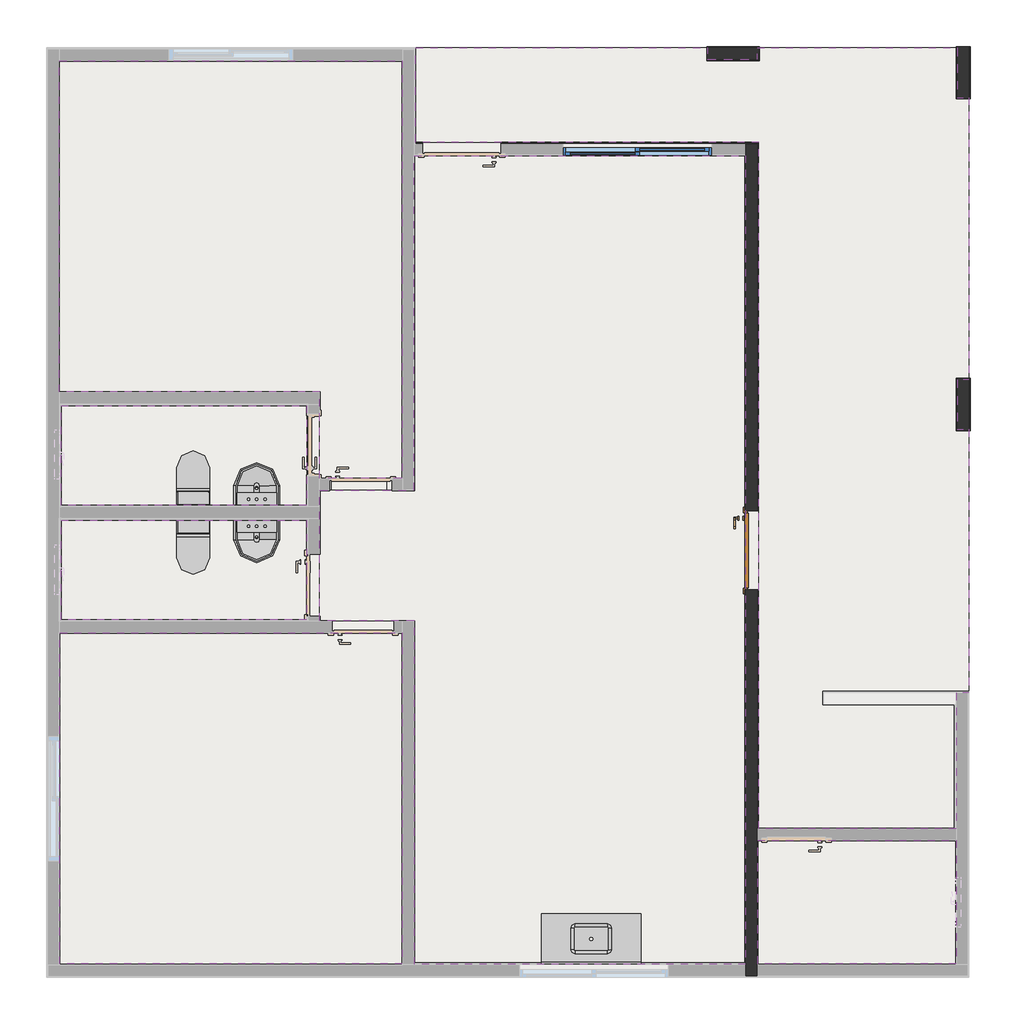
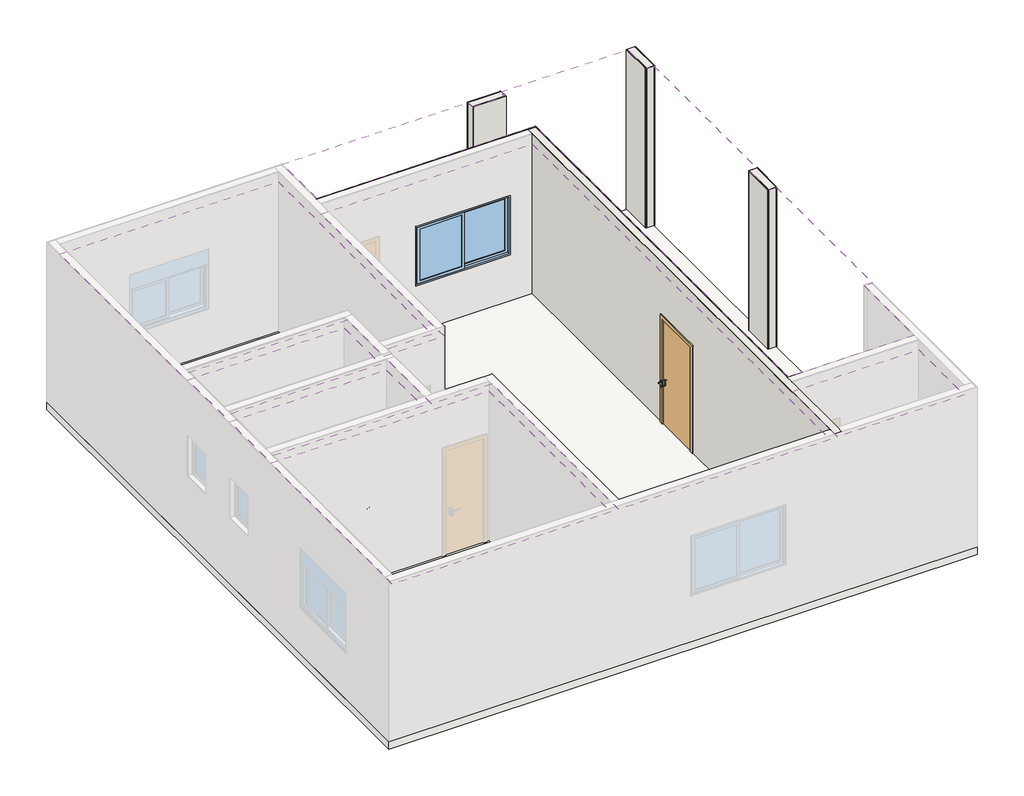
# One storey, part 3 of 3: 19 walls, 9 slabs, 8 flow terminals, 7 coverings, 1 door, 1 furniture element, 1 window.
"""IFC4 building model written with IfcOpenShell, lengths in millimetres."""

from ifc_helpers import new_model, si_unit, frame, origin, origin_with_axes, place, context, project, spatial, polyline, outline, extrude, faceted_brep, transform, mapped, element, save
from components import porta_de_madeira_interna_90x210_porta_de_madeira_interna_90_5963f6ac, flow_terminal_fb00f1ee, flow_terminal_a2c34cfb, flow_terminal_2b854958, flow_terminal_a1eea942, flow_terminal_109c0629, flow_terminal_5e795d7a, flow_terminal_b1bb3d39, flow_terminal_9a69dd1e, furniture_4236819a, window_180x120_f0fd8075

model = new_model("IFC4")

# Units and contexts
model_context = context("Model", 3, world=origin())
ifc_project = project(units=[si_unit("LENGTHUNIT", "METRE", prefix="MILLI")], contexts=[model_context])

# Site, building, storey
site = spatial("IfcSite", under=ifc_project)
building = spatial("IfcBuilding", under=site)
storey = spatial("IfcBuildingStorey", under=building, Name="Térreo", Elevation=0.0)

# Coverings
placement = place(None, origin())
element("IfcCovering", 1, ObjectType="Forro - Gesso acartonado + Pintura", at=placement, inside=storey, context=model_context, shape_type="SweptSolid", body=[
    extrude(outline(polyline([(31885.9970535, 10927.9995833), (34845.9970535, 10927.9995833), (34845.9970535, 9727.9995833), (31885.9970535, 9727.9995833), (31885.9970535, 10927.9995833)])), frame((0.0, 0.0, 3001.0), z_axis=(0.0, 0.0, 1.0), x_axis=(1.0, 0.0, 0.0)), (0.0, 0.0, 1.0), 20.0),
    extrude(outline(polyline([(34845.9970535, 10927.9995833), (34845.9970535, 9727.9995833), (31885.9970535, 9727.9995833), (31885.9970535, 10927.9995833), (34845.9970535, 10927.9995833)])), frame((0.0, 0.0, 3000.0), z_axis=(0.0, 0.0, 1.0), x_axis=(1.0, 0.0, 0.0)), (0.0, 0.0, 1.0), 1.0),
])
element("IfcCovering", 2, ObjectType="Forro - Gesso acartonado + Pintura", at=placement, inside=storey, context=model_context, shape_type="SweptSolid", body=[
    extrude(outline(polyline([(31885.9970535, 9547.9995833), (34845.9970535, 9547.9995833), (34845.9970535, 8347.9995833), (31885.9970535, 8347.9995833), (31885.9970535, 9547.9995833)])), frame((0.0, 0.0, 3001.0), z_axis=(0.0, 0.0, 1.0), x_axis=(1.0, 0.0, 0.0)), (0.0, 0.0, 1.0), 20.0),
    extrude(outline(polyline([(34845.9970535, 9547.9995833), (34845.9970535, 8347.9995833), (31885.9970535, 8347.9995833), (31885.9970535, 9547.9995833), (34845.9970535, 9547.9995833)])), frame((0.0, 0.0, 3000.0), z_axis=(0.0, 0.0, 1.0), x_axis=(1.0, 0.0, 0.0)), (0.0, 0.0, 1.0), 1.0),
])
element("IfcCovering", 3, ObjectType="Forro - Gesso acartonado + Pintura", at=placement, inside=storey, context=model_context, shape_type="SweptSolid", body=[
    extrude(outline(polyline([(31871.9970535, 8187.9995833), (35999.9970535, 8187.9995833), (35999.9970535, 4193.9995833), (31871.9970535, 4193.9995833), (31871.9970535, 8187.9995833)])), frame((0.0, 0.0, 3001.0), z_axis=(0.0, 0.0, 1.0), x_axis=(1.0, 0.0, 0.0)), (0.0, 0.0, 1.0), 20.0),
    extrude(outline(polyline([(35999.9970535, 8187.9995833), (35999.9970535, 4193.9995833), (31871.9970535, 4193.9995833), (31871.9970535, 8187.9995833), (35999.9970535, 8187.9995833)])), frame((0.0, 0.0, 3000.0), z_axis=(0.0, 0.0, 1.0), x_axis=(1.0, 0.0, 0.0)), (0.0, 0.0, 1.0), 1.0),
])
element("IfcCovering", 4, ObjectType="Forro - Gesso acartonado + Pintura", at=placement, inside=storey, context=model_context, shape_type="SweptSolid", body=[
    extrude(outline(polyline([(31865.9970535, 15087.9995833), (35999.9970535, 15087.9995833), (35999.9970535, 10053.9995833), (35005.9970535, 10053.9995833), (35005.9970535, 11093.9995833), (31865.9970535, 11093.9995833), (31865.9970535, 15087.9995833)])), frame((0.0, 0.0, 3001.0), z_axis=(0.0, 0.0, 1.0), x_axis=(1.0, 0.0, 0.0)), (0.0, 0.0, 1.0), 20.0),
    extrude(outline(polyline([(35999.9970535, 15087.9995833), (35999.9970535, 10053.9995833), (35005.9970535, 10053.9995833), (35005.9970535, 11093.9995833), (31865.9970535, 11093.9995833), (31865.9970535, 15087.9995833), (35999.9970535, 15087.9995833)])), frame((0.0, 0.0, 3000.0), z_axis=(0.0, 0.0, 1.0), x_axis=(1.0, 0.0, 0.0)), (0.0, 0.0, 1.0), 1.0),
])
element("IfcCovering", 5, ObjectType="Forro - Gesso acartonado + Pintura", at=placement, inside=storey, context=model_context, shape_type="SweptSolid", body=[
    extrude(outline(polyline([(36145.9970535, 9907.9995833), (36145.9970535, 13941.9995833), (40145.9970535, 13941.9995833), (40145.9970535, 4187.9995833), (36151.9970535, 4187.9995833), (36151.9970535, 8333.9995833), (35005.9970535, 8333.9995833), (35005.9970535, 9907.9995833), (36145.9970535, 9907.9995833)])), frame((0.0, 0.0, 3001.0), z_axis=(0.0, 0.0, 1.0), x_axis=(1.0, 0.0, 0.0)), (0.0, 0.0, 1.0), 20.0),
    extrude(outline(polyline([(36145.9970535, 13941.9995833), (40145.9970535, 13941.9995833), (40145.9970535, 4187.9995833), (36151.9970535, 4187.9995833), (36151.9970535, 8333.9995833), (35005.9970535, 8333.9995833), (35005.9970535, 9907.9995833), (36145.9970535, 9907.9995833), (36145.9970535, 13941.9995833)])), frame((0.0, 0.0, 3000.0), z_axis=(0.0, 0.0, 1.0), x_axis=(1.0, 0.0, 0.0)), (0.0, 0.0, 1.0), 1.0),
])
element("IfcCovering", 6, ObjectType="Forro - Gesso acartonado + Pintura", at=placement, inside=storey, context=model_context, shape_type="SweptSolid", body=[
    extrude(outline(polyline([(40291.9970535, 4193.9995833), (40291.9970535, 5687.9995833), (42685.9970535, 5687.9995833), (42685.9970535, 4193.9995833), (40291.9970535, 4193.9995833)])), frame((0.0, 0.0, 3001.0), z_axis=(0.0, 0.0, 1.0), x_axis=(1.0, 0.0, 0.0)), (0.0, 0.0, 1.0), 20.0),
    extrude(outline(polyline([(40291.9970535, 5687.9995833), (42685.9970535, 5687.9995833), (42685.9970535, 4193.9995833), (40291.9970535, 4193.9995833), (40291.9970535, 5687.9995833)])), frame((0.0, 0.0, 3000.0), z_axis=(0.0, 0.0, 1.0), x_axis=(1.0, 0.0, 0.0)), (0.0, 0.0, 1.0), 1.0),
])
element("IfcCovering", 7, ObjectType="Forro - Gesso acartonado + Pintura", at=placement, inside=storey, context=model_context, shape_type="SweptSolid", body=[
    extrude(outline(polyline([(36165.9970535, 15243.9995833), (39685.9970535, 15243.9995833), (39685.9970535, 15103.9995833), (40285.9970535, 15103.9995833), (40285.9970535, 15243.9995833), (42701.9970535, 15243.9995833), (42701.9970535, 14643.9995833), (42841.9970535, 14643.9995833), (42841.9970535, 11241.9995833), (42701.9970535, 11241.9995833), (42701.9970535, 10641.9995833), (42841.9970535, 10641.9995833), (42841.9970535, 7467.9995833), (42685.9970535, 7467.9995833), (42685.9970535, 5827.9995833), (40305.9970535, 5827.9995833), (40305.9970535, 14107.9995833), (36165.9970535, 14107.9995833), (36165.9970535, 15243.9995833)])), frame((0.0, 0.0, 3201.0), z_axis=(0.0, 0.0, 1.0), x_axis=(1.0, 0.0, 0.0)), (0.0, 0.0, 1.0), 20.0),
    extrude(outline(polyline([(39685.9970535, 15243.9995833), (39685.9970535, 15103.9995833), (40285.9970535, 15103.9995833), (40285.9970535, 15243.9995833), (42701.9970535, 15243.9995833), (42701.9970535, 14643.9995833), (42841.9970535, 14643.9995833), (42841.9970535, 11241.9995833), (42701.9970535, 11241.9995833), (42701.9970535, 10641.9995833), (42841.9970535, 10641.9995833), (42841.9970535, 7467.9995833), (42685.9970535, 7467.9995833), (42685.9970535, 5827.9995833), (40305.9970535, 5827.9995833), (40305.9970535, 14107.9995833), (36165.9970535, 14107.9995833), (36165.9970535, 15243.9995833), (39685.9970535, 15243.9995833)])), frame((0.0, 0.0, 3200.0), z_axis=(0.0, 0.0, 1.0), x_axis=(1.0, 0.0, 0.0)), (0.0, 0.0, 1.0), 1.0),
])

# Door
porta_de_madeira_interna_90x210_porta_de_madeira_interna_90_shape = porta_de_madeira_interna_90x210_porta_de_madeira_interna_90_5963f6ac(model_context)
element("IfcDoor", 8, ObjectType="Porta de Madeira Interna 90x210 : Porta de Madeira Interna 90 x 210", at=placement, inside=storey, context=model_context, shape_type="MappedRepresentation", body=[
    mapped(porta_de_madeira_interna_90x210_porta_de_madeira_interna_90_shape, transform((40139.8220535, 9182.9995833, 0.0), x_axis=(0.0, -1.0, 0.0), y_axis=(1.0, 0.0, 0.0), z_axis=(0.0, 0.0, 1.0))),
])

# Flow terminals
flow_terminal_shape = flow_terminal_fb00f1ee(model_context)
element("IfcFlowTerminal", 9, ObjectType="Deca_Shared_Assento_P.280 : Bacia Sanitária - Assento", at=placement, inside=storey, context=model_context, shape_type="MappedRepresentation", body=[
    mapped(flow_terminal_shape, transform((33473.7803912, 9341.9452804, 400.0300928), x_axis=(1.0, 0.0, 0.0), y_axis=(0.0, 0.0, 1.0), z_axis=(0.0, -1.0, 0.0))),
])
flow_terminal_2_shape = flow_terminal_a2c34cfb(model_context)
element("IfcFlowTerminal", 10, ObjectType="DECA_BACIA SANITARIA WISH_P.280_CAIXA ACOPLADA : Bacia Sanitária - Caixa Acoplada Inferior", at=placement, inside=storey, context=model_context, shape_type="MappedRepresentation", body=[
    mapped(flow_terminal_2_shape, transform((33479.5386948, 9547.9995833, 0.0), x_axis=(1.0, 0.0, 0.0), y_axis=(0.0, 0.0, 1.0), z_axis=(0.0, -1.0, 0.0))),
])
flow_terminal_3_shape = flow_terminal_2b854958(model_context)
element("IfcFlowTerminal", 11, ObjectType="Deca_Shared_Caixa Acoplada para Bacia_P.280 : Bacia Sanitária - Caixa Acoplada", at=placement, inside=storey, context=model_context, shape_type="MappedRepresentation", body=[
    mapped(flow_terminal_3_shape, transform((33479.5385074, 9537.9995833, 400.0300928), x_axis=(1.0, 0.0, 0.0), y_axis=(0.0, 0.0, 1.0), z_axis=(0.0, -1.0, 0.0))),
])
flow_terminal_4_shape = flow_terminal_a1eea942(model_context)
element("IfcFlowTerminal", 12, ObjectType="DECA_BACIA SANITARIA WISH_P.280_CAIXA ACOPLADA : Bacia Sanitária - Caixa Acoplada Inferior", at=placement, inside=storey, context=model_context, shape_type="MappedRepresentation", body=[
    mapped(flow_terminal_4_shape, transform((33479.5386948, 9727.9995833, 0.0), x_axis=(1.0, 0.0, 0.0), y_axis=(0.0, 0.0, -1.0), z_axis=(0.0, 1.0, 0.0))),
])
flow_terminal_5_shape = flow_terminal_109c0629(model_context)
element("IfcFlowTerminal", 13, ObjectType="Deca_Shared_Caixa Acoplada para Bacia_P.280 : Bacia Sanitária - Caixa Acoplada", at=placement, inside=storey, context=model_context, shape_type="MappedRepresentation", body=[
    mapped(flow_terminal_5_shape, transform((33479.5385074, 9737.9995833, 400.0300928), x_axis=(1.0, 0.0, 0.0), y_axis=(0.0, 0.0, -1.0), z_axis=(0.0, 1.0, 0.0))),
])
flow_terminal_6_shape = flow_terminal_5e795d7a(model_context)
element("IfcFlowTerminal", 14, ObjectType="Deca_Shared_Assento_P.280 : Bacia Sanitária - Assento", at=placement, inside=storey, context=model_context, shape_type="MappedRepresentation", body=[
    mapped(flow_terminal_6_shape, transform((33473.7803912, 9934.0538862, 400.0300928), x_axis=(1.0, 0.0, 0.0), y_axis=(0.0, 0.0, -1.0), z_axis=(0.0, 1.0, 0.0))),
])
flow_terminal_7_shape = flow_terminal_b1bb3d39(model_context)
element("IfcFlowTerminal", 15, ObjectType="Deca_Lavatorio Belle Epoque_L.2_Coluna : Pia Banho", at=placement, inside=storey, context=model_context, shape_type="MappedRepresentation", body=[
    mapped(flow_terminal_7_shape, transform((34245.9970535, 9547.9995833, 783.6791778), x_axis=(1.0, 0.0, 0.0), y_axis=(0.0, 0.0, 1.0), z_axis=(0.0, -1.0, 0.0))),
])
flow_terminal_8_shape = flow_terminal_9a69dd1e(model_context)
element("IfcFlowTerminal", 16, ObjectType="Deca_Lavatorio Belle Epoque_L.2_Coluna : Pia Banho", at=placement, inside=storey, context=model_context, shape_type="MappedRepresentation", body=[
    mapped(flow_terminal_8_shape, transform((34245.9970535, 9727.9995833, 783.6791778), x_axis=(1.0, 0.0, 0.0), y_axis=(0.0, 0.0, -1.0), z_axis=(0.0, 1.0, 0.0))),
])

# Furniture
furniture_shape = furniture_4236819a(model_context)
element("IfcFurniture", 17, ObjectType="Tampo de Bancada com Cuba : Granilite 60cm", at=placement, inside=storey, context=model_context, shape_type="MappedRepresentation", body=[
    mapped(furniture_shape, transform((37682.0347585, 4197.9995833, 10.0), x_axis=(-1.0, 0.0, 0.0), y_axis=(0.0, -1.0, 0.0), z_axis=(0.0, 0.0, 1.0))),
])

# Slabs
element("IfcSlab", 18, ObjectType="Cerâmica", at=placement, inside=storey, context=model_context, shape_type="SweptSolid", body=[
    extrude(outline(polyline([(35999.9970535, 15081.9995833), (35999.9970535, 10053.9995833), (35005.9970535, 10053.9995833), (35005.9970535, 11093.9995833), (31865.9970535, 11093.9995833), (31865.9970535, 15081.9995833), (35999.9970535, 15081.9995833)])), origin_with_axes(), (0.0, 0.0, 1.0), 10.0),
])
element("IfcSlab", 19, ObjectType="Cerâmica", at=placement, inside=storey, context=model_context, shape_type="SweptSolid", body=[
    extrude(outline(polyline([(36005.9970535, 8187.9995833), (36005.9970535, 4187.9995833), (31865.9970535, 4187.9995833), (31865.9970535, 8187.9995833), (36005.9970535, 8187.9995833)])), origin_with_axes(), (0.0, 0.0, 1.0), 10.0),
])
element("IfcSlab", 20, ObjectType="Cerâmica", at=placement, inside=storey, context=model_context, shape_type="Brep", body=[
    faceted_brep([(36145.9970535, 13941.9995833, 0.0), (40139.9970535, 13941.9995833, 0.0), (40145.9970535, 13941.9995833, 0.0), (40145.9970535, 9657.9995833, 0.0), (40145.9970535, 8707.9995833, 0.0), (40145.9970535, 4187.9995833, 0.0), (36145.9970535, 4187.9995833, 0.0), (36145.9970535, 8333.9995833, 0.0), (35005.9970535, 8333.9995833, 0.0), (35005.9970535, 9907.9995833, 0.0), (36145.9970535, 9907.9995833, 0.0), (36145.9970535, 13941.9995833, 10.0), (36145.9970535, 9907.9995833, 10.0), (35005.9970535, 9907.9995833, 10.0), (35005.9970535, 8333.9995833, 10.0), (36145.9970535, 8333.9995833, 10.0), (36145.9970535, 4187.9995833, 10.0), (36151.9970535, 4187.9995833, 10.0), (40139.9970535, 4187.9995833, 10.0), (40145.9970535, 4187.9995833, 10.0), (40145.9970535, 4207.9995833, 10.0), (40145.9970535, 8707.9995833, 10.0), (40145.9970535, 9657.9995833, 10.0), (40145.9970535, 13941.9995833, 10.0), (40139.9970535, 13941.9995833, 10.0)], [[[0, 1, 2, 3, 4, 5, 6, 7, 8, 9, 10]], [[11, 12, 13, 14, 15, 16, 17, 18, 19, 20, 21, 22, 23, 24]], [[2, 1, 0, 11, 24, 23]], [[5, 4, 3, 2, 23, 22, 21, 20, 19]], [[6, 5, 19, 18, 17, 16]], [[7, 6, 16, 15]], [[8, 7, 15, 14]], [[9, 8, 14, 13]], [[10, 9, 13, 12]], [[0, 10, 12, 11]]]),
])
element("IfcSlab", 21, ObjectType="Cerâmica", at=placement, inside=storey, context=model_context, shape_type="SweptSolid", body=[
    extrude(outline(polyline([(34845.9970535, 10927.9995833), (34845.9970535, 9727.9995833), (31885.9970535, 9727.9995833), (31885.9970535, 10927.9995833), (34845.9970535, 10927.9995833)])), origin_with_axes(), (0.0, 0.0, 1.0), 10.0),
])
element("IfcSlab", 22, ObjectType="Cerâmica", at=placement, inside=storey, context=model_context, shape_type="SweptSolid", body=[
    extrude(outline(polyline([(31885.9970535, 9547.9995833), (34845.9970535, 9547.9995833), (34845.9970535, 8347.9995833), (31885.9970535, 8347.9995833), (31885.9970535, 9547.9995833)])), origin_with_axes(), (0.0, 0.0, 1.0), 10.0),
])
element("IfcSlab", 23, ObjectType="Cerâmica", at=placement, inside=storey, context=model_context, shape_type="SweptSolid", body=[
    extrude(outline(polyline([(42701.9970535, 15243.9995833), (42701.9970535, 14643.9995833), (42841.9970535, 14643.9995833), (42841.9970535, 7463.9995833), (41075.9970535, 7463.9995833), (41075.9970535, 7321.9995833), (42665.9970535, 7321.9995833), (42665.9970535, 5827.9995833), (40305.9970535, 5827.9995833), (40305.9970535, 14107.9995833), (36165.9970535, 14107.9995833), (36165.9970535, 15243.9995833), (42701.9970535, 15243.9995833)])), origin_with_axes(), (0.0, 0.0, 1.0), 10.0),
])
element("IfcSlab", 24, ObjectType="Cerâmica", at=placement, inside=storey, context=model_context, shape_type="SweptSolid", body=[
    extrude(outline(polyline([(40291.9970535, 5681.9995833), (42685.9970535, 5681.9995833), (42685.9970535, 4193.9995833), (40291.9970535, 4193.9995833), (40291.9970535, 5681.9995833)])), origin_with_axes(), (0.0, 0.0, 1.0), 10.0),
])
element("IfcSlab", 25, ObjectType="Soleira", at=placement, inside=storey, context=model_context, shape_type="SweptSolid", body=[
    extrude(outline(polyline([(35813.2429837, 10053.9995833), (35813.2429837, 9907.9995833), (35152.9970535, 9907.9995833), (35152.9970535, 10053.9995833), (35813.2429837, 10053.9995833)])), frame((0.0, 0.0, -10.0), z_axis=(0.0, 0.0, 1.0), x_axis=(1.0, 0.0, 0.0)), (0.0, 0.0, 1.0), 10.0),
])
element("IfcSlab", 26, ObjectType="radier", at=placement, inside=storey, context=model_context, shape_type="SweptSolid", body=[
    extrude(outline(polyline([(31709.9970535, 4031.9995833), (31709.9970535, 15243.9995833), (42841.9970535, 15243.9995833), (42841.9970535, 4031.9995833), (31709.9970535, 4031.9995833)])), frame((0.0, 0.0, -150.0), z_axis=(0.0, 0.0, 1.0), x_axis=(1.0, 0.0, 0.0)), (0.0, 0.0, 1.0), 150.0),
])

# Walls
element("IfcWall", 27, ObjectType="Alvenaria Estrutural", at=placement, inside=storey, context=model_context, shape_type="Brep", body=[
    faceted_brep([(40145.9970535, 4047.9995833, 3200.0), (40145.9970535, 4187.9995833, 3200.0), (40145.9970535, 13941.9995833, 3200.0), (40145.9970535, 13947.9995833, 3200.0), (40145.9970535, 14087.9995833, 3200.0), (40145.9970535, 14087.9995833, 0.0), (40145.9970535, 13947.9995833, 0.0), (40145.9970535, 13941.9995833, 0.0), (40145.9970535, 9657.9995833, 0.0), (40145.9970535, 9657.9995833, 10.0), (40145.9970535, 9657.9995833, 2125.0), (40145.9970535, 8707.9995833, 2125.0), (40145.9970535, 8707.9995833, 10.0), (40145.9970535, 8707.9995833, 0.0), (40145.9970535, 4187.9995833, 0.0), (40145.9970535, 4047.9995833, 0.0), (40285.9970535, 14087.9995833, 3200.0), (40285.9970535, 5833.9995833, 3200.0), (40285.9970535, 5827.9995833, 3200.0), (40285.9970535, 5687.9995833, 3200.0), (40285.9970535, 5681.9995833, 3200.0), (40285.9970535, 4187.9995833, 3200.0), (40285.9970535, 4047.9995833, 3200.0), (40285.9970535, 4047.9995833, 0.0), (40285.9970535, 4187.9995833, 0.0), (40285.9970535, 5681.9995833, 0.0), (40285.9970535, 5687.9995833, 0.0), (40285.9970535, 5827.9995833, 0.0), (40285.9970535, 5833.9995833, 0.0), (40285.9970535, 8707.9995833, 0.0), (40285.9970535, 8707.9995833, 2125.0), (40285.9970535, 9657.9995833, 2125.0), (40285.9970535, 9657.9995833, 0.0), (40285.9970535, 14087.9995833, 0.0)], [[[0, 1, 2, 3, 4, 5, 6, 7, 8, 9, 10, 11, 12, 13, 14, 15]], [[16, 17, 18, 19, 20, 21, 22, 23, 24, 25, 26, 27, 28, 29, 30, 31, 32, 33]], [[6, 5, 33, 32, 8, 7]], [[1, 0, 22, 21, 20, 19, 18, 17, 16, 4, 3, 2]], [[0, 15, 23, 22]], [[5, 4, 16, 33]], [[12, 11, 30, 29, 13]], [[11, 10, 31, 30]], [[9, 8, 32, 31, 10]], [[14, 13, 29, 28, 27, 26, 25, 24, 23, 15]]]),
])
element("IfcWall", 28, ObjectType="Alvenaria Estrutural", at=placement, inside=storey, context=model_context, shape_type="SweptSolid", body=[
    extrude(outline(polyline([(42701.9970535, 14628.9995833), (42701.9970535, 15258.9995833), (42841.9970535, 15258.9995833), (42841.9970535, 14628.9995833), (42701.9970535, 14628.9995833)])), origin_with_axes(), (0.0, 0.0, 1.0), 3200.0),
])
element("IfcWall", 29, ObjectType="Alvenaria Estrutural", at=placement, inside=storey, context=model_context, shape_type="SweptSolid", body=[
    extrude(outline(polyline([(42701.9970535, 10626.9995833), (42701.9970535, 11256.9995833), (42841.9970535, 11256.9995833), (42841.9970535, 10626.9995833), (42701.9970535, 10626.9995833)])), origin_with_axes(), (0.0, 0.0, 1.0), 3200.0),
])
element("IfcWall", 30, ObjectType="Alvenaria Estrutural", at=placement, inside=storey, context=model_context, shape_type="SweptSolid", body=[
    extrude(outline(polyline([(39678.9970535, 15243.9995833), (40308.9970535, 15243.9995833), (40308.9970535, 15103.9995833), (39678.9970535, 15103.9995833), (39678.9970535, 15243.9995833)])), origin_with_axes(), (0.0, 0.0, 1.0), 3200.0),
])
element("IfcWall", 31, ObjectType="Gesso Liso + Pintura", at=placement, inside=storey, context=model_context, shape_type="SweptSolid", body=[
    extrude(outline(polyline([(13947.9995833, 0.0), (13941.9995833, 0.0), (13941.9995833, 10.0), (9657.9995833, 10.0), (9657.9995833, 2125.0), (8707.9995833, 2125.0), (8707.9995833, 10.0), (4187.9995833, 10.0), (4187.9995833, 3200.0), (13947.9995833, 3200.0), (13947.9995833, 0.0)])), frame((40144.9970535, 0.0, 0.0), z_axis=(1.0, 0.0, 0.0), x_axis=(0.0, 1.0, 0.0)), (0.0, 0.0, 1.0), 1.0),
    extrude(outline(polyline([(4187.9995833, 3200.0), (13947.9995833, 3200.0), (13947.9995833, 0.0), (13941.9995833, 0.0), (13941.9995833, 10.0), (9657.9995833, 10.0), (9657.9995833, 2125.0), (8707.9995833, 2125.0), (8707.9995833, 10.0), (4187.9995833, 10.0), (4187.9995833, 3200.0)])), frame((40139.9970535, 0.0, 0.0), z_axis=(1.0, 0.0, 0.0), x_axis=(0.0, 1.0, 0.0)), (0.0, 0.0, 1.0), 5.0),
])
element("IfcWall", 32, ObjectType="Reboco + Pintura Externa", at=placement, inside=storey, context=model_context, shape_type="SolidModel", body=[
    extrude(outline(polyline([(14103.9995833, 0.0), (9657.9995833, 0.0), (9657.9995833, 2125.0), (8707.9995833, 2125.0), (8707.9995833, 0.0), (5833.9995833, 0.0), (5833.9995833, 3200.0), (14103.9995833, 3200.0), (14103.9995833, 0.0)])), frame((40300.9970535, 0.0, 0.0), z_axis=(1.0, 0.0, 0.0), x_axis=(0.0, 1.0, 0.0)), (0.0, 0.0, 1.0), 1.0),
    faceted_brep([(40290.9970535, 9657.9995833, 0.0), (40290.9970535, 14092.9995833, 0.0), (40290.9970535, 14092.9995833, 3200.0), (40290.9970535, 5833.9995833, 3200.0), (40290.9970535, 5833.9995833, 0.0), (40290.9970535, 8707.9995833, 0.0), (40290.9970535, 8707.9995833, 2125.0), (40290.9970535, 9657.9995833, 2125.0), (40285.9970535, 5833.9995833, 0.0), (40285.9970535, 8707.9995833, 0.0), (40285.9970535, 14087.9995833, 3200.0), (40285.9970535, 5833.9995833, 3200.0), (40285.9970535, 14092.9995833, 3200.0), (40285.9970535, 8707.9995833, 2125.0), (40285.9970535, 9657.9995833, 2125.0), (40285.9970535, 9657.9995833, 0.0), (40285.9970535, 14087.9995833, 0.0), (40285.9970535, 14092.9995833, 0.0)], [[[0, 1, 2, 3, 4, 5, 6, 7]], [[8, 9, 5, 4]], [[10, 11, 3, 2, 12]], [[11, 8, 4, 3]], [[9, 13, 6, 5]], [[13, 14, 7, 6]], [[14, 15, 0, 7]], [[16, 17, 1, 0, 15]], [[11, 10, 12, 17, 16, 15, 14, 13, 9, 8]], [[17, 12, 2, 1]]]),
    extrude(outline(polyline([(14102.9995833, 0.0), (9657.9995833, 0.0), (9657.9995833, 2125.0), (8707.9995833, 2125.0), (8707.9995833, 0.0), (5833.9995833, 0.0), (5833.9995833, 3200.0), (14102.9995833, 3200.0), (14102.9995833, 0.0)])), frame((40290.9970535, 0.0, 0.0), z_axis=(1.0, 0.0, 0.0), x_axis=(0.0, 1.0, 0.0)), (0.0, 0.0, 1.0), 10.0),
])
element("IfcWall", 33, ObjectType="Reboco + Pintura Externa", at=placement, inside=storey, context=model_context, shape_type="SolidModel", body=[
    extrude(outline(polyline([(0.0, 37195.9970535), (0.0, 40300.9970535), (3200.0, 40300.9970535), (3200.0, 36145.9970535), (0.0, 36145.9970535), (0.0, 36245.9970535), (2125.0, 36245.9970535), (2125.0, 37195.9970535), (0.0, 37195.9970535)]), holes=[polyline([(920.0, 37939.9970535), (2120.0, 37939.9970535), (2120.0, 39739.9970535), (920.0, 39739.9970535), (920.0, 37939.9970535)])]), frame((0.0, 14102.9995833, 0.0), z_axis=(0.0, 1.0, 0.0), x_axis=(0.0, 0.0, 1.0)), (0.0, 0.0, 1.0), 1.0),
    faceted_brep([(40285.9970535, 14092.9995833, 0.0), (37195.9970535, 14092.9995833, 0.0), (37195.9970535, 14092.9995833, 2125.0), (36245.9970535, 14092.9995833, 2125.0), (36245.9970535, 14092.9995833, 0.0), (36145.9970535, 14092.9995833, 0.0), (36145.9970535, 14092.9995833, 3200.0), (40285.9970535, 14092.9995833, 3200.0), (37939.9970535, 14092.9995833, 2120.0), (37939.9970535, 14092.9995833, 920.0), (39739.9970535, 14092.9995833, 920.0), (39739.9970535, 14092.9995833, 2120.0), (40145.9970535, 14087.9995833, 0.0), (37195.9970535, 14087.9995833, 0.0), (40285.9970535, 14087.9995833, 0.0), (40145.9970535, 14087.9995833, 3200.0), (40285.9970535, 14087.9995833, 3200.0), (36145.9970535, 14087.9995833, 3200.0), (36145.9970535, 14087.9995833, 0.0), (36245.9970535, 14087.9995833, 2125.0), (36245.9970535, 14087.9995833, 0.0), (37195.9970535, 14087.9995833, 2125.0), (37939.9970535, 14087.9995833, 2120.0), (37939.9970535, 14087.9995833, 920.0), (39739.9970535, 14087.9995833, 2120.0), (39739.9970535, 14087.9995833, 920.0)], [[[0, 1, 2, 3, 4, 5, 6, 7], [8, 9, 10, 11]], [[12, 13, 1, 0, 14]], [[15, 16, 7, 6, 17]], [[16, 14, 0, 7]], [[18, 17, 6, 5]], [[19, 20, 4, 3]], [[21, 19, 3, 2]], [[13, 21, 2, 1]], [[22, 23, 9, 8]], [[24, 22, 8, 11]], [[25, 24, 11, 10]], [[23, 25, 10, 9]], [[20, 18, 5, 4]], [[16, 15, 17, 18, 20, 19, 21, 13, 12, 14], [23, 22, 24, 25]]]),
    extrude(outline(polyline([(0.0, 37195.9970535), (0.0, 40290.9970535), (3200.0, 40290.9970535), (3200.0, 36145.9970535), (0.0, 36145.9970535), (0.0, 36245.9970535), (2125.0, 36245.9970535), (2125.0, 37195.9970535), (0.0, 37195.9970535)]), holes=[polyline([(920.0, 37939.9970535), (2120.0, 37939.9970535), (2120.0, 39739.9970535), (920.0, 39739.9970535), (920.0, 37939.9970535)])]), frame((0.0, 14092.9995833, 0.0), z_axis=(0.0, 1.0, 0.0), x_axis=(0.0, 0.0, 1.0)), (0.0, 0.0, 1.0), 10.0),
])
element("IfcWall", 34, ObjectType="Reboco + Pintura Externa", at=placement, inside=storey, context=model_context, shape_type="SolidModel", body=[
    extrude(outline(polyline([(39677.9970535, 15259.9995833), (40309.9970535, 15259.9995833), (40309.9970535, 15258.9995833), (39677.9970535, 15258.9995833), (39677.9970535, 15259.9995833)])), origin_with_axes(), (0.0, 0.0, 1.0), 3200.0),
    faceted_brep([(40298.9970535, 15248.9995833, 0.0), (39688.9970535, 15248.9995833, 0.0), (39688.9970535, 15248.9995833, 3200.0), (40298.9970535, 15248.9995833, 3200.0), (39693.9970535, 15243.9995833, 0.0), (39688.9970535, 15243.9995833, 0.0), (40298.9970535, 15243.9995833, 0.0), (40293.9970535, 15243.9995833, 0.0), (40293.9970535, 15243.9995833, 3200.0), (40298.9970535, 15243.9995833, 3200.0), (39688.9970535, 15243.9995833, 3200.0), (39693.9970535, 15243.9995833, 3200.0)], [[[0, 1, 2, 3]], [[4, 5, 1, 0, 6, 7]], [[8, 9, 3, 2, 10, 11]], [[5, 4, 7, 6, 9, 8, 11, 10]], [[5, 10, 2, 1]], [[9, 6, 0, 3]]]),
    extrude(outline(polyline([(39678.9970535, 15248.9995833), (39678.9970535, 15258.9995833), (40308.9970535, 15258.9995833), (40308.9970535, 15248.9995833), (39678.9970535, 15248.9995833)])), origin_with_axes(), (0.0, 0.0, 1.0), 3200.0),
])
element("IfcWall", 35, ObjectType="Reboco + Pintura Externa", at=placement, inside=storey, context=model_context, shape_type="SweptSolid", body=[
    extrude(outline(polyline([(39677.9970535, 15087.9995833), (39677.9970535, 15258.9995833), (39678.9970535, 15258.9995833), (39678.9970535, 15087.9995833), (39677.9970535, 15087.9995833)])), origin_with_axes(), (0.0, 0.0, 1.0), 3200.0),
    extrude(outline(polyline([(39693.9970535, 15103.9995833), (39693.9970535, 15098.9995833), (39688.9970535, 15098.9995833), (39688.9970535, 15103.9995833), (39693.9970535, 15103.9995833)])), origin_with_axes(), (0.0, 0.0, 1.0), 3200.0),
    extrude(outline(polyline([(39688.9970535, 15088.9995833), (39678.9970535, 15088.9995833), (39678.9970535, 15103.9995833), (39688.9970535, 15103.9995833), (39688.9970535, 15088.9995833)])), origin_with_axes(), (0.0, 0.0, 1.0), 3200.0),
    extrude(outline(polyline([(39678.9970535, 15248.9995833), (39688.9970535, 15248.9995833), (39688.9970535, 15243.9995833), (39678.9970535, 15243.9995833), (39678.9970535, 15248.9995833)])), origin_with_axes(), (0.0, 0.0, 1.0), 3200.0),
])
element("IfcWall", 36, ObjectType="Reboco + Pintura Externa", at=placement, inside=storey, context=model_context, shape_type="SolidModel", body=[
    extrude(outline(polyline([(40309.9970535, 15087.9995833), (39678.9970535, 15087.9995833), (39678.9970535, 15088.9995833), (40309.9970535, 15088.9995833), (40309.9970535, 15087.9995833)])), origin_with_axes(), (0.0, 0.0, 1.0), 3200.0),
    faceted_brep([(39693.9970535, 15098.9995833, 0.0), (40298.9970535, 15098.9995833, 0.0), (40298.9970535, 15098.9995833, 3200.0), (39693.9970535, 15098.9995833, 3200.0), (40293.9970535, 15103.9995833, 0.0), (40298.9970535, 15103.9995833, 0.0), (39693.9970535, 15103.9995833, 0.0), (40293.9970535, 15103.9995833, 3200.0), (39693.9970535, 15103.9995833, 3200.0), (40298.9970535, 15103.9995833, 3200.0)], [[[0, 1, 2, 3]], [[4, 5, 1, 0, 6]], [[7, 8, 3, 2, 9]], [[8, 6, 0, 3]], [[6, 8, 7, 9, 5, 4]], [[5, 9, 2, 1]]]),
    extrude(outline(polyline([(39688.9970535, 15088.9995833), (39688.9970535, 15098.9995833), (40308.9970535, 15098.9995833), (40308.9970535, 15088.9995833), (39688.9970535, 15088.9995833)])), origin_with_axes(), (0.0, 0.0, 1.0), 3200.0),
])
element("IfcWall", 37, ObjectType="Reboco + Pintura Externa", at=placement, inside=storey, context=model_context, shape_type="SweptSolid", body=[
    extrude(outline(polyline([(40309.9970535, 15258.9995833), (40309.9970535, 15088.9995833), (40308.9970535, 15088.9995833), (40308.9970535, 15258.9995833), (40309.9970535, 15258.9995833)])), origin_with_axes(), (0.0, 0.0, 1.0), 3200.0),
    extrude(outline(polyline([(40298.9970535, 15248.9995833), (40308.9970535, 15248.9995833), (40308.9970535, 15243.9995833), (40298.9970535, 15243.9995833), (40298.9970535, 15248.9995833)])), origin_with_axes(), (0.0, 0.0, 1.0), 3200.0),
    extrude(outline(polyline([(40308.9970535, 15098.9995833), (40298.9970535, 15098.9995833), (40298.9970535, 15103.9995833), (40308.9970535, 15103.9995833), (40308.9970535, 15098.9995833)])), origin_with_axes(), (0.0, 0.0, 1.0), 3200.0),
])
element("IfcWall", 38, ObjectType="Reboco + Pintura Externa", at=placement, inside=storey, context=model_context, shape_type="SolidModel", body=[
    extrude(outline(polyline([(42857.9970535, 15259.9995833), (42857.9970535, 14627.9995833), (42856.9970535, 14627.9995833), (42856.9970535, 15259.9995833), (42857.9970535, 15259.9995833)])), origin_with_axes(), (0.0, 0.0, 1.0), 3200.0),
    faceted_brep([(42846.9970535, 14638.9995833, 0.0), (42846.9970535, 15248.9995833, 0.0), (42846.9970535, 15248.9995833, 3200.0), (42846.9970535, 14638.9995833, 3200.0), (42841.9970535, 15243.9995833, 0.0), (42841.9970535, 15248.9995833, 0.0), (42841.9970535, 14638.9995833, 0.0), (42841.9970535, 14643.9995833, 0.0), (42841.9970535, 14643.9995833, 3200.0), (42841.9970535, 14638.9995833, 3200.0), (42841.9970535, 15248.9995833, 3200.0), (42841.9970535, 15243.9995833, 3200.0)], [[[0, 1, 2, 3]], [[4, 5, 1, 0, 6, 7]], [[8, 9, 3, 2, 10, 11]], [[5, 4, 7, 6, 9, 8, 11, 10]], [[9, 6, 0, 3]], [[5, 10, 2, 1]]]),
    extrude(outline(polyline([(42846.9970535, 15258.9995833), (42856.9970535, 15258.9995833), (42856.9970535, 14628.9995833), (42846.9970535, 14628.9995833), (42846.9970535, 15258.9995833)])), origin_with_axes(), (0.0, 0.0, 1.0), 3200.0),
])
element("IfcWall", 39, ObjectType="Reboco + Pintura Externa", at=placement, inside=storey, context=model_context, shape_type="SweptSolid", body=[
    extrude(outline(polyline([(42856.9970535, 14627.9995833), (42685.9970535, 14627.9995833), (42685.9970535, 14628.9995833), (42856.9970535, 14628.9995833), (42856.9970535, 14627.9995833)])), origin_with_axes(), (0.0, 0.0, 1.0), 3200.0),
    extrude(outline(polyline([(42696.9970535, 14643.9995833), (42701.9970535, 14643.9995833), (42701.9970535, 14638.9995833), (42696.9970535, 14638.9995833), (42696.9970535, 14643.9995833)])), origin_with_axes(), (0.0, 0.0, 1.0), 3200.0),
    extrude(outline(polyline([(42686.9970535, 14628.9995833), (42686.9970535, 14638.9995833), (42701.9970535, 14638.9995833), (42701.9970535, 14628.9995833), (42686.9970535, 14628.9995833)])), origin_with_axes(), (0.0, 0.0, 1.0), 3200.0),
    extrude(outline(polyline([(42846.9970535, 14638.9995833), (42846.9970535, 14628.9995833), (42841.9970535, 14628.9995833), (42841.9970535, 14638.9995833), (42846.9970535, 14638.9995833)])), origin_with_axes(), (0.0, 0.0, 1.0), 3200.0),
])
element("IfcWall", 40, ObjectType="Reboco + Pintura Externa", at=placement, inside=storey, context=model_context, shape_type="SolidModel", body=[
    extrude(outline(polyline([(42685.9970535, 14628.9995833), (42685.9970535, 15259.9995833), (42686.9970535, 15259.9995833), (42686.9970535, 14628.9995833), (42685.9970535, 14628.9995833)])), origin_with_axes(), (0.0, 0.0, 1.0), 3200.0),
    faceted_brep([(42696.9970535, 15248.9995833, 0.0), (42696.9970535, 14643.9995833, 0.0), (42696.9970535, 14643.9995833, 3200.0), (42696.9970535, 15248.9995833, 3200.0), (42701.9970535, 15243.9995833, 0.0), (42701.9970535, 14643.9995833, 0.0), (42701.9970535, 15248.9995833, 0.0), (42701.9970535, 15243.9995833, 3200.0), (42701.9970535, 15248.9995833, 3200.0), (42701.9970535, 14643.9995833, 3200.0)], [[[0, 1, 2, 3]], [[4, 5, 1, 0, 6]], [[7, 8, 3, 2, 9]], [[5, 9, 2, 1]], [[5, 4, 6, 8, 7, 9]], [[8, 6, 0, 3]]]),
    extrude(outline(polyline([(42696.9970535, 14638.9995833), (42686.9970535, 14638.9995833), (42686.9970535, 15258.9995833), (42696.9970535, 15258.9995833), (42696.9970535, 14638.9995833)])), origin_with_axes(), (0.0, 0.0, 1.0), 3200.0),
])
element("IfcWall", 41, ObjectType="Reboco + Pintura Externa", at=placement, inside=storey, context=model_context, shape_type="SweptSolid", body=[
    extrude(outline(polyline([(42686.9970535, 15259.9995833), (42856.9970535, 15259.9995833), (42856.9970535, 15258.9995833), (42686.9970535, 15258.9995833), (42686.9970535, 15259.9995833)])), origin_with_axes(), (0.0, 0.0, 1.0), 3200.0),
    extrude(outline(polyline([(42846.9970535, 15258.9995833), (42846.9970535, 15248.9995833), (42841.9970535, 15248.9995833), (42841.9970535, 15258.9995833), (42846.9970535, 15258.9995833)])), origin_with_axes(), (0.0, 0.0, 1.0), 3200.0),
    extrude(outline(polyline([(42696.9970535, 15248.9995833), (42696.9970535, 15258.9995833), (42701.9970535, 15258.9995833), (42701.9970535, 15248.9995833), (42696.9970535, 15248.9995833)])), origin_with_axes(), (0.0, 0.0, 1.0), 3200.0),
])
element("IfcWall", 42, ObjectType="Reboco + Pintura Externa", at=placement, inside=storey, context=model_context, shape_type="SweptSolid", body=[
    extrude(outline(polyline([(42685.9970535, 11257.9995833), (42857.9970535, 11257.9995833), (42857.9970535, 11256.9995833), (42685.9970535, 11256.9995833), (42685.9970535, 11257.9995833)])), origin_with_axes(), (0.0, 0.0, 1.0), 3200.0),
    extrude(outline(polyline([(42846.9970535, 11241.9995833), (42841.9970535, 11241.9995833), (42841.9970535, 11246.9995833), (42846.9970535, 11246.9995833), (42846.9970535, 11241.9995833)])), origin_with_axes(), (0.0, 0.0, 1.0), 3200.0),
    extrude(outline(polyline([(42701.9970535, 11241.9995833), (42696.9970535, 11241.9995833), (42696.9970535, 11246.9995833), (42701.9970535, 11246.9995833), (42701.9970535, 11241.9995833)])), origin_with_axes(), (0.0, 0.0, 1.0), 3200.0),
    extrude(outline(polyline([(42856.9970535, 11256.9995833), (42856.9970535, 11246.9995833), (42841.9970535, 11246.9995833), (42841.9970535, 11256.9995833), (42856.9970535, 11256.9995833)])), origin_with_axes(), (0.0, 0.0, 1.0), 3200.0),
    extrude(outline(polyline([(42686.9970535, 11246.9995833), (42686.9970535, 11256.9995833), (42701.9970535, 11256.9995833), (42701.9970535, 11246.9995833), (42686.9970535, 11246.9995833)])), origin_with_axes(), (0.0, 0.0, 1.0), 3200.0),
])
element("IfcWall", 43, ObjectType="Reboco + Pintura Externa", at=placement, inside=storey, context=model_context, shape_type="SolidModel", body=[
    extrude(outline(polyline([(42857.9970535, 11256.9995833), (42857.9970535, 10625.9995833), (42856.9970535, 10625.9995833), (42856.9970535, 11256.9995833), (42857.9970535, 11256.9995833)])), origin_with_axes(), (0.0, 0.0, 1.0), 3200.0),
    faceted_brep([(42846.9970535, 10636.9995833, 0.0), (42846.9970535, 11241.9995833, 0.0), (42846.9970535, 11241.9995833, 3200.0), (42846.9970535, 10636.9995833, 3200.0), (42841.9970535, 10641.9995833, 0.0), (42841.9970535, 11241.9995833, 0.0), (42841.9970535, 10636.9995833, 0.0), (42841.9970535, 10641.9995833, 3200.0), (42841.9970535, 10636.9995833, 3200.0), (42841.9970535, 11241.9995833, 3200.0)], [[[0, 1, 2, 3]], [[4, 5, 1, 0, 6]], [[7, 8, 3, 2, 9]], [[5, 9, 2, 1]], [[5, 4, 6, 8, 7, 9]], [[8, 6, 0, 3]]]),
    extrude(outline(polyline([(42846.9970535, 11246.9995833), (42856.9970535, 11246.9995833), (42856.9970535, 10626.9995833), (42846.9970535, 10626.9995833), (42846.9970535, 11246.9995833)])), origin_with_axes(), (0.0, 0.0, 1.0), 3200.0),
])
element("IfcWall", 44, ObjectType="Reboco + Pintura Externa", at=placement, inside=storey, context=model_context, shape_type="SweptSolid", body=[
    extrude(outline(polyline([(42856.9970535, 10625.9995833), (42685.9970535, 10625.9995833), (42685.9970535, 10626.9995833), (42856.9970535, 10626.9995833), (42856.9970535, 10625.9995833)])), origin_with_axes(), (0.0, 0.0, 1.0), 3200.0),
    extrude(outline(polyline([(42696.9970535, 10641.9995833), (42701.9970535, 10641.9995833), (42701.9970535, 10636.9995833), (42696.9970535, 10636.9995833), (42696.9970535, 10641.9995833)])), origin_with_axes(), (0.0, 0.0, 1.0), 3200.0),
    extrude(outline(polyline([(42686.9970535, 10626.9995833), (42686.9970535, 10636.9995833), (42701.9970535, 10636.9995833), (42701.9970535, 10626.9995833), (42686.9970535, 10626.9995833)])), origin_with_axes(), (0.0, 0.0, 1.0), 3200.0),
    extrude(outline(polyline([(42846.9970535, 10636.9995833), (42846.9970535, 10626.9995833), (42841.9970535, 10626.9995833), (42841.9970535, 10636.9995833), (42846.9970535, 10636.9995833)])), origin_with_axes(), (0.0, 0.0, 1.0), 3200.0),
])
element("IfcWall", 45, ObjectType="Reboco + Pintura Externa", at=placement, inside=storey, context=model_context, shape_type="SweptSolid", body=[
    extrude(outline(polyline([(42685.9970535, 10626.9995833), (42685.9970535, 11256.9995833), (42686.9970535, 11256.9995833), (42686.9970535, 10626.9995833), (42685.9970535, 10626.9995833)])), origin_with_axes(), (0.0, 0.0, 1.0), 3200.0),
    extrude(outline(polyline([(42701.9970535, 11241.9995833), (42701.9970535, 10641.9995833), (42696.9970535, 10641.9995833), (42696.9970535, 11241.9995833), (42701.9970535, 11241.9995833)])), origin_with_axes(), (0.0, 0.0, 1.0), 3200.0),
    extrude(outline(polyline([(42696.9970535, 10636.9995833), (42686.9970535, 10636.9995833), (42686.9970535, 11246.9995833), (42696.9970535, 11246.9995833), (42696.9970535, 10636.9995833)])), origin_with_axes(), (0.0, 0.0, 1.0), 3200.0),
])

# Window
window_180x120_shape = window_180x120_f0fd8075(model_context)
element("IfcWindow", 46, ObjectType="Janela de correr - 2 Painéis : 180x120", at=placement, inside=storey, context=model_context, shape_type="MappedRepresentation", body=[
    mapped(window_180x120_shape, transform((38839.9970535, 14017.9995833, 270.0), x_axis=(1.0, 0.0, 0.0), y_axis=(0.0, 1.0, 0.0), z_axis=(0.0, 0.0, 1.0))),
])

save(model, "model.ifc")
